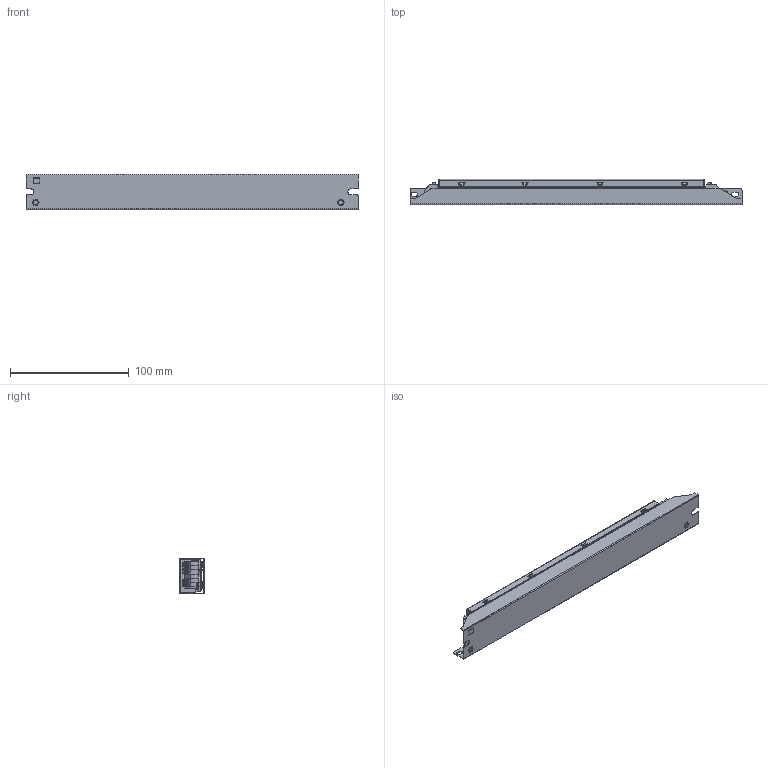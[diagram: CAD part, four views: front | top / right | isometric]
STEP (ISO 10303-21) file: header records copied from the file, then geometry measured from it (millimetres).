
FILE_DESCRIPTION((''),'2;1');
FILE_NAME('PDL-D4I-050D1400U-DALI-PC_26072_ASM','2026-07-20T17:15:50',('15365'),(''),'CREO PARAMETRIC BY PTC INC, 2025323','CREO PARAMETRIC BY PTC INC, 2025323','');
FILE_SCHEMA(('CONFIG_CONTROL_DESIGN','SHAPE_APPEARANCE_LAYERS_GROUPS'));
Length unit declared in the file: inch
Products named in the file (96): MAC046_BOTTOM_CEANZHUANG_3_1__2; MAC046_TOP_5-5_CHENGKONG_3_1__1; NEILUOWEN-M3_10_1_1_1_1_1_1_1_1; DUANZISHI_CASE_ASM_1_ASM_1_AS_2_ASM; BOARD_1_2_3_1_2_1_1_1_1_1_1_1_1; CIRCUITWORKS-1206_RESISTOR_1__3; R71_ASM_2_ASM_1_ASM_1_1_ASM_1_2_ASM; USER_LIBRARY-SOD-123_1_2_2_1__2; D10_ASM_3_ASM_1_ASM_1_1_ASM_1_2_ASM; CIRCUITWORKS-1206_RESISTOR_3__4; R56_1_ASM_2_ASM_1_ASM_1_1_ASM_2_ASM; CIRCUITWORKS-1206_RESISTOR_3__5; R55_1_2_ASM_2_ASM_1_ASM_1_1_A_2_ASM; CIRCUITWORKS-1206_RESISTOR_3__6; R60_1_2_ASM_2_ASM_1_ASM_1_1_A_2_ASM; R41_1_ASM_2_ASM_1_ASM_1_1_ASM_2_ASM; R37_1_2_ASM_2_ASM_1_ASM_1_1_A_2_ASM; EXTRUDED-19502_2_1_1_1_1_1_1__1; 1540493888_ASM_2_ASM_1_ASM_1__2_ASM; Q6_1_2_ASM_1_ASM_1_ASM_1_1_AS_2_ASM; EXTRUDED-19717_2_1_1_1_1_1_2__2; 1540494704_ASM_2_ASM_1_ASM_1__3_ASM; Q2_ASM_4_ASM_2_ASM_1_1_ASM_1__2_ASM; USER_LIBRARY-SOD-123_3_2_1_1__3; ZD1_1_2_ASM_2_ASM_1_ASM_1_1_A_2_ASM; EXTRUDED-19960_2_1_1_1_1_1_1__1; 1540491304_ASM_2_ASM_1_ASM_1__2_ASM; F1_1_ASM_2_ASM_1_ASM_1_1_ASM__2_ASM; R25_1_2_3_ASM_1_ASM_1_ASM_1_1_2_ASM; C13_1_2_ASM_1_ASM_1_ASM_1_1_A_2_ASM; R12_1_2_ASM_1_ASM_1_ASM_1_1_A_2_ASM; R15_1_2_ASM_1_ASM_1_ASM_1_1_A_2_ASM; R21_1_ASM_1_ASM_1_ASM_1_1_ASM_2_ASM; EXTRUDED-19717_2_1_1_1_1_1_1_1_; 1540494704_ASM_2_ASM_1_ASM_1__4_ASM; Q4_1_2_ASM_1_ASM_1_ASM_1_1_AS_2_ASM; EXTRUDED-19717_2_1_1_1_1_1_1__2; 1540494704_ASM_2_ASM_1_ASM_1__6_ASM; Q5_1_2_ASM_1_ASM_1_ASM_1_1_AS_2_ASM; C22_1_ASM_2_ASM_1_ASM_1_1_ASM_2_ASM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
Assembly tree (120 placements, depth 11):
  PDL-D4I-050D1400U-DALI-PC_26072_ASM
    KTLD-30-50-UV-P1400-55-VDIM-L_2_ASM
      ASM0007_ASM_1_ASM_1_ASM_1_ASM_1_ASM
        MAC050PD1400UA-INT_PCCT_23070_2_ASM
          MAC030D0800UP-MA_230615_ASM_1_2_ASM
            MAC046_CASE_CEANZHUANG-CHENGK_2_ASM
              DUANZISHI_CASE_ASM_1_ASM_1_AS_2_ASM
                MAC046_BOTTOM_CEANZHUANG_3_1__2
                MAC046_TOP_5-5_CHENGKONG_3_1__1
                NEILUOWEN-M3_10_1_1_1_1_1_1_1_1  x2
              ASM0004_ASM_1_1_ASM_1_ASM_1_1_2_ASM
                PCB_1_2_3_ASM_1_ASM_2_ASM_1_1_2_ASM
                  BOARD_1_2_3_1_2_1_1_1_1_1_1_1_1
                  R71_ASM_2_ASM_1_ASM_1_1_ASM_1_2_ASM
                  D10_ASM_3_ASM_1_ASM_1_1_ASM_1_2_ASM
                  R56_1_ASM_2_ASM_1_ASM_1_1_ASM_2_ASM
                  R55_1_2_ASM_2_ASM_1_ASM_1_1_A_2_ASM
                  R60_1_2_ASM_2_ASM_1_ASM_1_1_A_2_ASM
                  R41_1_ASM_2_ASM_1_ASM_1_1_ASM_2_ASM
                  R37_1_2_ASM_2_ASM_1_ASM_1_1_A_2_ASM
                  Q6_1_2_ASM_1_ASM_1_ASM_1_1_AS_2_ASM
                  Q2_ASM_4_ASM_2_ASM_1_1_ASM_1__2_ASM
                  ZD1_1_2_ASM_2_ASM_1_ASM_1_1_A_2_ASM
                  F1_1_ASM_2_ASM_1_ASM_1_1_ASM__2_ASM
                  R25_1_2_3_ASM_1_ASM_1_ASM_1_1_2_ASM
                  C13_1_2_ASM_1_ASM_1_ASM_1_1_A_2_ASM
                  R12_1_2_ASM_1_ASM_1_ASM_1_1_A_2_ASM
                  R15_1_2_ASM_1_ASM_1_ASM_1_1_A_2_ASM
                  R21_1_ASM_1_ASM_1_ASM_1_1_ASM_2_ASM
                  Q4_1_2_ASM_1_ASM_1_ASM_1_1_AS_2_ASM
                  Q5_1_2_ASM_1_ASM_1_ASM_1_1_AS_2_ASM
                  C22_1_ASM_2_ASM_1_ASM_1_1_ASM_2_ASM
                  R39_1_ASM_2_ASM_1_ASM_1_1_ASM_2_ASM
                  R14_1_2_ASM_1_ASM_1_ASM_1_1_A_2_ASM
                  R23_1_2_ASM_1_ASM_1_ASM_1_1_A_2_ASM
                  R42_ASM_3_ASM_1_ASM_1_1_ASM_1_2_ASM
                  SW1_1_ASM_2_1_1_1_1_1_1_1_1_1_1
                  R66_1_2_ASM_2_ASM_1_ASM_1_1_A_2_ASM
                  R67_1_2_ASM_2_ASM_1_ASM_1_1_A_2_ASM
                  R68_1_2_ASM_2_ASM_1_ASM_1_1_A_2_ASM
                  R69_1_2_ASM_2_ASM_1_ASM_1_1_A_2_ASM
                  SW2_1_ASM_2_1_1_1_1_1_1_1_1_1_1
                  ZD2_1_2_ASM_2_ASM_1_ASM_1_1_A_2_ASM
                  Q1_1_2_ASM_1_ASM_1_ASM_1_1_AS_2_ASM
                  R72_1_ASM_1_ASM_1_ASM_1_1_ASM_2_ASM
                  C25_1_ASM_1_ASM_1_ASM_1_1_ASM_2_ASM
                  R57_1_ASM_2_ASM_1_ASM_1_1_ASM_2_ASM
                  R43_ASM_3_ASM_1_ASM_1_1_ASM_1_2_ASM
                  EC4_1_ASM_1_ASM_2_ASM_1_1_ASM_2_ASM
                  EC2_1_ASM_2_ASM_1_ASM_1_1_ASM_2_ASM
              M3_LUOSI_1_1_1_1_1_1_1_1_1_1_1
              PRT0025_1_2_1_1_1_1_1_1_1_1_1
          MUTOUDUANZI_5_1_1_1_2_1_1_1_1_1
    DUANZI_3PIN_3_ASM_ASM_1_ASM_1_1_ASM
      DUANZI_5PIN_GRY_1_ASM_1_ASM_1_2_ASM
        DUANZI_1PIN_1_ASM
          DUANZI_5PIN_GRY_1_3_1_1_1_1_1_1
          DUANZI_2PIN_1_1
          DUANZI_2PIN_1_2
          DUANZI_5PIN_GRY_1_4_1_1_1_1_1_1
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Bounding box: 280 x 21.2 x 30.3 mm (x, y, z)
Volume: 32369.6 mm3; surface area: 82477.5 mm2
Topology: 57 solids, 68 shells, 2726 faces, 8083 edges, 5592 vertices
Faces by surface type: plane 1658, cylinder 858, bspline 114, torus 78, cone 16, extrusion 2
Entity records: 118135 total; most frequent: CARTESIAN_POINT 28430, ORIENTED_EDGE 13906, DIRECTION 12168, PRESENTATION_STYLE_ASSIGNMENT 7360, EDGE_CURVE 7013, STYLED_ITEM 6954, CURVE_STYLE 6707, VERTEX_POINT 4877
